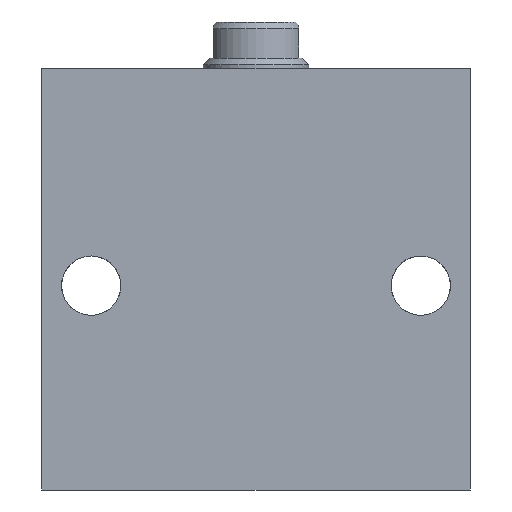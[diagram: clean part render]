
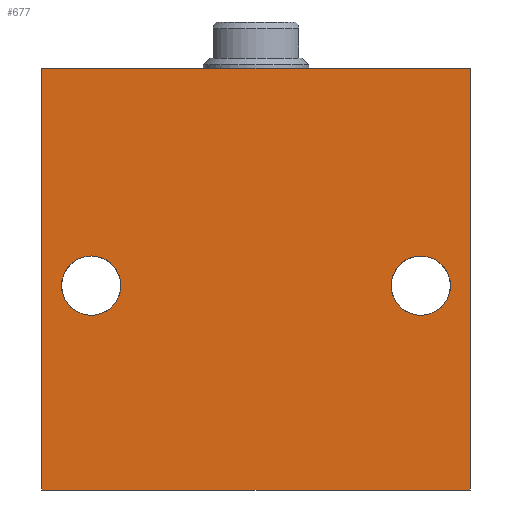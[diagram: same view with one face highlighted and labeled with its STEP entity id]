
A CAD part, front view. The second image highlights one B-rep face of the part: STEP entity #677.
In plain terms, the highlighted planar face has unit normal (0, -1, 0).
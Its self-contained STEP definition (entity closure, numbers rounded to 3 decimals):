
#127 = VERTEX_POINT ( 'NONE', #638 ) ;
#145 = CIRCLE ( 'NONE', #2226, 4.5 ) ;
#170 = CIRCLE ( 'NONE', #2227, 4.5 ) ;
#247 = VECTOR ( 'NONE', #1691, 1000. ) ;
#249 = VECTOR ( 'NONE', #1708, 1000. ) ;
#250 = LINE ( 'NONE', #1692, #247 ) ;
#252 = LINE ( 'NONE', #1696, #249 ) ;
#254 = LINE ( 'NONE', #1724, #263 ) ;
#258 = CIRCLE ( 'NONE', #2277, 4.5 ) ;
#261 = CIRCLE ( 'NONE', #2273, 4.5 ) ;
#263 = VECTOR ( 'NONE', #1719, 1000. ) ;
#298 = VERTEX_POINT ( 'NONE', #622 ) ;
#344 = FACE_BOUND ( 'NONE', #1217, .T. ) ;
#347 = FACE_OUTER_BOUND ( 'NONE', #1229, .T. ) ;
#348 = FACE_BOUND ( 'NONE', #1227, .T. ) ;
#622 = CARTESIAN_POINT ( 'NONE',  ( 25., -22.5, 26.5 ) ) ;
#638 = CARTESIAN_POINT ( 'NONE',  ( -32.5, -22.5, 64. ) ) ;
#677 = ADVANCED_FACE ( 'NONE', ( #348, #344, #347 ), #1750, .F. ) ;
#733 = DIRECTION ( 'NONE',  ( 0., 0., 1. ) ) ;
#740 = CARTESIAN_POINT ( 'NONE',  ( -25., -22.5, 31. ) ) ;
#905 = DIRECTION ( 'NONE',  ( 0., 1., 0. ) ) ;
#993 = DIRECTION ( 'NONE',  ( 0., 0., 1. ) ) ;
#994 = DIRECTION ( 'NONE',  ( 0., 1., 0. ) ) ;
#995 = CARTESIAN_POINT ( 'NONE',  ( 25., -22.5, 31. ) ) ;
#1069 = VERTEX_POINT ( 'NONE', #1860 ) ;
#1071 = VERTEX_POINT ( 'NONE', #1856 ) ;
#1072 = VERTEX_POINT ( 'NONE', #1855 ) ;
#1124 = VERTEX_POINT ( 'NONE', #1777 ) ;
#1129 = VERTEX_POINT ( 'NONE', #1772 ) ;
#1132 = VERTEX_POINT ( 'NONE', #1769 ) ;
#1217 = EDGE_LOOP ( 'NONE', ( #1480, #1292 ) ) ;
#1227 = EDGE_LOOP ( 'NONE', ( #1294, #1474 ) ) ;
#1229 = EDGE_LOOP ( 'NONE', ( #1408, #1475, #1470, #1468 ) ) ;
#1292 = ORIENTED_EDGE ( 'NONE', *, *, #2118, .T. ) ;
#1294 = ORIENTED_EDGE ( 'NONE', *, *, #2026, .T. ) ;
#1408 = ORIENTED_EDGE ( 'NONE', *, *, #2029, .T. ) ;
#1468 = ORIENTED_EDGE ( 'NONE', *, *, #2023, .T. ) ;
#1470 = ORIENTED_EDGE ( 'NONE', *, *, #2030, .F. ) ;
#1474 = ORIENTED_EDGE ( 'NONE', *, *, #2100, .T. ) ;
#1475 = ORIENTED_EDGE ( 'NONE', *, *, #2295, .F. ) ;
#1480 = ORIENTED_EDGE ( 'NONE', *, *, #2027, .T. ) ;
#1691 = DIRECTION ( 'NONE',  ( 1., 0., 0. ) ) ;
#1692 = CARTESIAN_POINT ( 'NONE',  ( -32.5, -22.5, 64. ) ) ;
#1696 = CARTESIAN_POINT ( 'NONE',  ( -32.5, -22.5, 0. ) ) ;
#1697 = DIRECTION ( 'NONE',  ( 0., 0., 1. ) ) ;
#1700 = DIRECTION ( 'NONE',  ( 0., 1., 0. ) ) ;
#1702 = CARTESIAN_POINT ( 'NONE',  ( 25., -22.5, 31. ) ) ;
#1703 = DIRECTION ( 'NONE',  ( 0., 0., 1. ) ) ;
#1704 = DIRECTION ( 'NONE',  ( 0., 1., 0. ) ) ;
#1705 = CARTESIAN_POINT ( 'NONE',  ( -25., -22.5, 31. ) ) ;
#1708 = DIRECTION ( 'NONE',  ( 1., 0., 0. ) ) ;
#1719 = DIRECTION ( 'NONE',  ( 0., 0., -1. ) ) ;
#1724 = CARTESIAN_POINT ( 'NONE',  ( -32.5, -22.5, 64. ) ) ;
#1742 = DIRECTION ( 'NONE',  ( 0., 0., 1. ) ) ;
#1750 = PLANE ( 'NONE',  #2329 ) ;
#1758 = CARTESIAN_POINT ( 'NONE',  ( -32.5, -22.5, 64. ) ) ;
#1765 = DIRECTION ( 'NONE',  ( 0., 1., 0. ) ) ;
#1769 = CARTESIAN_POINT ( 'NONE',  ( -25., -22.5, 26.5 ) ) ;
#1772 = CARTESIAN_POINT ( 'NONE',  ( -25., -22.5, 35.5 ) ) ;
#1777 = CARTESIAN_POINT ( 'NONE',  ( 25., -22.5, 35.5 ) ) ;
#1855 = CARTESIAN_POINT ( 'NONE',  ( -32.5, -22.5, 0. ) ) ;
#1856 = CARTESIAN_POINT ( 'NONE',  ( 32.5, -22.5, 64. ) ) ;
#1860 = CARTESIAN_POINT ( 'NONE',  ( 32.5, -22.5, 0. ) ) ;
#2023 = EDGE_CURVE ( 'NONE', #127, #1072, #254, .T. ) ;
#2026 = EDGE_CURVE ( 'NONE', #1129, #1132, #258, .T. ) ;
#2027 = EDGE_CURVE ( 'NONE', #1124, #298, #261, .T. ) ;
#2029 = EDGE_CURVE ( 'NONE', #1072, #1069, #252, .T. ) ;
#2030 = EDGE_CURVE ( 'NONE', #127, #1071, #250, .T. ) ;
#2100 = EDGE_CURVE ( 'NONE', #1132, #1129, #170, .T. ) ;
#2118 = EDGE_CURVE ( 'NONE', #298, #1124, #145, .T. ) ;
#2226 = AXIS2_PLACEMENT_3D ( 'NONE', #995, #994, #993 ) ;
#2227 = AXIS2_PLACEMENT_3D ( 'NONE', #740, #905, #733 ) ;
#2273 = AXIS2_PLACEMENT_3D ( 'NONE', #1702, #1700, #1697 ) ;
#2277 = AXIS2_PLACEMENT_3D ( 'NONE', #1705, #1704, #1703 ) ;
#2295 = EDGE_CURVE ( 'NONE', #1071, #1069, #2799, .T. ) ;
#2329 = AXIS2_PLACEMENT_3D ( 'NONE', #1758, #1765, #1742 ) ;
#2415 = DIRECTION ( 'NONE',  ( 0., 0., -1. ) ) ;
#2479 = CARTESIAN_POINT ( 'NONE',  ( 32.5, -22.5, 64. ) ) ;
#2799 = LINE ( 'NONE', #2479, #2806 ) ;
#2806 = VECTOR ( 'NONE', #2415, 1000. ) ;
